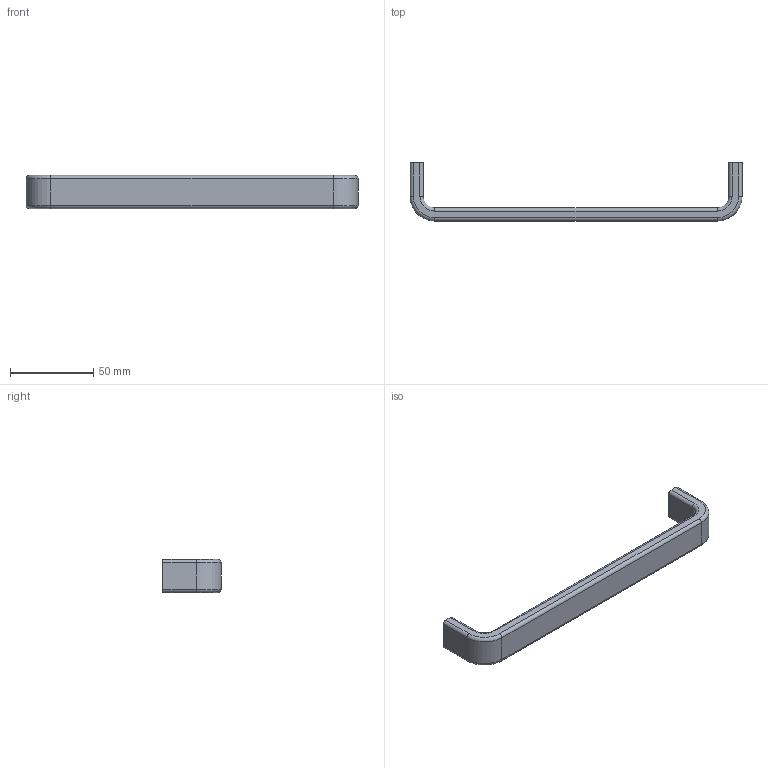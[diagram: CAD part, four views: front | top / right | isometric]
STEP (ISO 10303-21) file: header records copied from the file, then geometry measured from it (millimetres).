
FILE_DESCRIPTION( ( '' ), '1' );
FILE_NAME( 'C:/Documents and Settings/Sachin/Desktop/Sheet 10_1/stp/ 115149.stp', '2013-10-22T11:19:02', ( '' ), ( '' ), ' ', ' ', ' ' );
FILE_SCHEMA( ( 'CONFIG_CONTROL_DESIGN' ) );
Length unit declared in the file: millimetre
Products named in the file (1): 1
Bounding box: 200 x 35 x 20 mm (x, y, z)
Volume: 37896.8 mm3; surface area: 13482.8 mm2
Topology: 1 solids, 1 shells, 40 faces, 92 edges, 56 vertices
Faces by surface type: cylinder 20, plane 12, torus 8
Entity records: 1180 total; most frequent: DIRECTION 222, CARTESIAN_POINT 189, ORIENTED_EDGE 184, EDGE_CURVE 92, AXIS2_PLACEMENT_3D 89, VERTEX_POINT 56, CIRCLE 48, LINE 44
